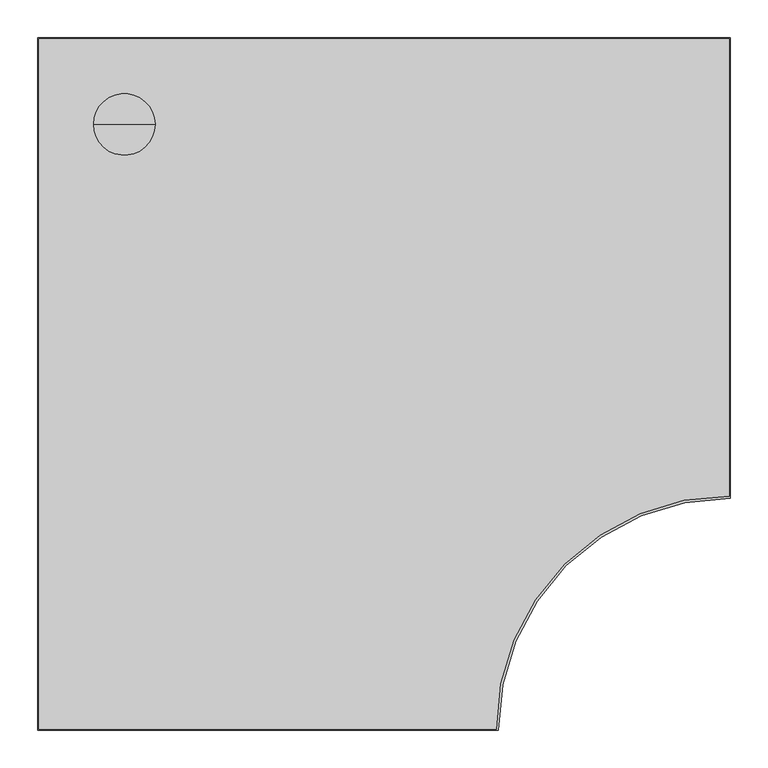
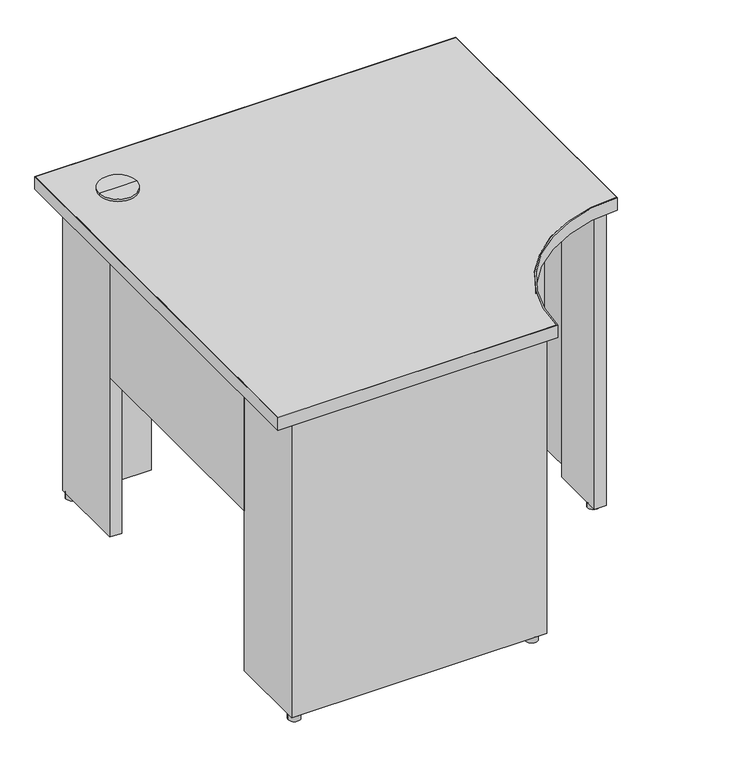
"""IFC4 building model written with IfcOpenShell, lengths in millimetres: furniture geometry, Steelcase - Kick Freestanding - Desk - Curve Corner - Partial Height Modesty Panel : 24D x 36W - Two Full Panel - LPL."""

import ifcopenshell
import ifcopenshell.guid

model = None  # the IFC model being written
_history = None  # IfcOwnerHistory: only IFC2X3 demands one
_inside = {}  # id of a spatial element -> (the spatial element, [elements in it])
_under = {}  # id of a project, library or spatial element -> (it, [spatial elements below it])
_declared = {}  # id of a project -> (the project, [libraries it declares])
_typed = {}  # id of a type object -> (the type object, [elements of that type])
_made_of = {}  # id of a material, layer set ... -> (it, [elements and type objects made of it])


def new_model(schema):
    """Start an empty IFC model of exactly this schema.

    Asked for "IFC4X3", IfcOpenShell would pick the latest addendum, in which some entities
    have other attributes; the version numbers below select the first issue.
    IFC2X3 requires an IfcOwnerHistory on every rooted entity: one is made here for all.
    """
    global model, _history
    if schema == "IFC4X3":
        model = ifcopenshell.file(schema_version=(4, 3, 0, 0))
    else:
        model = ifcopenshell.file(schema=schema)
    _inside.clear()
    _under.clear()
    _declared.clear()
    _typed.clear()
    _made_of.clear()
    _history = None
    if model.schema == "IFC2X3":
        org = make("IfcOrganization", Name="unknown")
        user = make(
            "IfcPersonAndOrganization",
            ThePerson=make("IfcPerson", FamilyName="unknown"),
            TheOrganization=org,
        )
        app = make(
            "IfcApplication",
            ApplicationDeveloper=org,
            Version="unknown",
            ApplicationFullName="unknown",
            ApplicationIdentifier="unknown",
        )
        _history = make(
            "IfcOwnerHistory",
            OwningUser=user,
            OwningApplication=app,
            ChangeAction="ADDED",
            CreationDate=0,
        )
    return model


def make(cls, **values):
    """One entity of the class cls with the attributes given. An attribute that is None is left unset."""
    return model.create_entity(
        cls, **{name: value for name, value in values.items() if value is not None}
    )


def rooted(cls, **values):
    """An entity with a GlobalId (a new one), such as an element, a storey or a relation."""
    return make(cls, GlobalId=ifcopenshell.guid.new(), OwnerHistory=_history, **values)


def si_unit(unit_type, name, prefix=None):
    """IfcSIUnit, for example si_unit("LENGTHUNIT", "METRE", prefix="MILLI")."""
    return make("IfcSIUnit", UnitType=unit_type, Prefix=prefix, Name=name)


def assignment(units):
    """IfcUnitAssignment: the units of a project."""
    return None if units is None else make("IfcUnitAssignment", Units=units)


def point(xyz):
    """IfcCartesianPoint."""
    return None if xyz is None else make("IfcCartesianPoint", Coordinates=xyz)


def direction(xyz):
    """IfcDirection."""
    return None if xyz is None else make("IfcDirection", DirectionRatios=xyz)


def frame(location, z_axis=None, x_axis=None):
    """IfcAxis2Placement3D, a coordinate frame: its origin and axes. An axis left out is left unset."""
    return make(
        "IfcAxis2Placement3D",
        Location=point(location),
        Axis=direction(z_axis),
        RefDirection=direction(x_axis),
    )


def frame_2d(location, x_axis=None):
    """IfcAxis2Placement2D, a coordinate frame in the plane: its origin and x axis."""
    return make(
        "IfcAxis2Placement2D", Location=point(location), RefDirection=direction(x_axis)
    )


def origin():
    """The frame at (0, 0, 0) with its axes left unset."""
    return frame((0.0, 0.0, 0.0))


def origin_with_axes():
    """The frame at (0, 0, 0) with the z axis (0, 0, 1) and the x axis (1, 0, 0) written out."""
    return frame((0.0, 0.0, 0.0), z_axis=(0.0, 0.0, 1.0), x_axis=(1.0, 0.0, 0.0))


def place(relative_to, where):
    """IfcLocalPlacement: puts the frame where relative to a parent placement (None: the world)."""
    return make(
        "IfcLocalPlacement", PlacementRelTo=relative_to, RelativePlacement=where
    )


def context(
    kind, dimensions, precision=None, world=None, true_north=None, identifier=None
):
    """IfcGeometricRepresentationContext, for example the 3D "Model" context."""
    return make(
        "IfcGeometricRepresentationContext",
        ContextIdentifier=identifier,
        ContextType=kind,
        CoordinateSpaceDimension=dimensions,
        Precision=precision,
        WorldCoordinateSystem=world,
        TrueNorth=true_north,
    )


def project(units=None, contexts=None):
    """IfcProject with its units and contexts."""
    return rooted(
        "IfcProject",
        Name="project",
        RepresentationContexts=contexts,
        UnitsInContext=assignment(units),
    )


def spatial(cls, under=None, at=None, **own):
    """A site, building, storey or space (cls), placed at a placement, below another one or the project."""
    s = rooted(cls, ObjectPlacement=at, **own)
    if under is not None:
        _under.setdefault(under.id(), (under, []))[1].append(s)
    return s


def polyline(points):
    """IfcPolyline through the points."""
    return make("IfcPolyline", Points=[point(p) for p in points])


def circle_curve(where, radius):
    """IfcCircle in the frame where."""
    return make("IfcCircle", Position=where, Radius=radius)


def trimmed(basis, trim1, trim2, sense, master):
    """IfcTrimmedCurve: the piece of a basis curve between two trims."""
    return make(
        "IfcTrimmedCurve",
        BasisCurve=basis,
        Trim1=trim1,
        Trim2=trim2,
        SenseAgreement=sense,
        MasterRepresentation=master,
    )


def segment(curve, same_sense, transition):
    """IfcCompositeCurveSegment."""
    return make(
        "IfcCompositeCurveSegment",
        Transition=transition,
        SameSense=same_sense,
        ParentCurve=curve,
    )


def composite_curve(segments, self_intersect=None):
    """IfcCompositeCurve: segments joined end to end."""
    return make("IfcCompositeCurve", Segments=segments, SelfIntersect=self_intersect)


def outline(outer, holes=None, kind="AREA"):
    """IfcArbitraryClosedProfileDef: a profile drawn as a closed curve; with holes, ...WithVoids."""
    if holes is None:
        return make("IfcArbitraryClosedProfileDef", ProfileType=kind, OuterCurve=outer)
    return make(
        "IfcArbitraryProfileDefWithVoids",
        ProfileType=kind,
        OuterCurve=outer,
        InnerCurves=holes,
    )


def extrude(swept, where, along, depth):
    """IfcExtrudedAreaSolid: the profile swept, set in the frame where, extruded along a direction by depth."""
    return make(
        "IfcExtrudedAreaSolid",
        SweptArea=swept,
        Position=where,
        ExtrudedDirection=direction(along),
        Depth=depth,
    )


def shape(context_of_items, identifier, shape_type, items):
    """IfcShapeRepresentation: the items that make up one representation, for example the "Body"."""
    return make(
        "IfcShapeRepresentation",
        ContextOfItems=context_of_items,
        RepresentationIdentifier=identifier,
        RepresentationType=shape_type,
        Items=items,
    )


def source(mapping_origin, context_of_items, identifier, shape_type, items):
    """IfcRepresentationMap: a shape defined once, which mapped items show again and again."""
    return make(
        "IfcRepresentationMap",
        MappingOrigin=mapping_origin,
        MappedRepresentation=shape(context_of_items, identifier, shape_type, items),
    )


def transform(
    local_origin,
    x_axis=None,
    y_axis=None,
    z_axis=None,
    scale=None,
    scale2=None,
    scale3=None,
    uniform=True,
):
    """IfcCartesianTransformationOperator3D, or its non-uniform kind. x_axis, y_axis, z_axis: its Axis1, 2, 3."""
    if uniform:
        return make(
            "IfcCartesianTransformationOperator3D",
            Axis1=direction(x_axis),
            Axis2=direction(y_axis),
            LocalOrigin=point(local_origin),
            Scale=scale,
            Axis3=direction(z_axis),
        )
    return make(
        "IfcCartesianTransformationOperator3DnonUniform",
        Axis1=direction(x_axis),
        Axis2=direction(y_axis),
        LocalOrigin=point(local_origin),
        Scale=scale,
        Axis3=direction(z_axis),
        Scale2=scale2,
        Scale3=scale3,
    )


def mapped(mapping_source, mapping_target):
    """IfcMappedItem: shows the shape of a source again, moved by a transform."""
    return make(
        "IfcMappedItem", MappingSource=mapping_source, MappingTarget=mapping_target
    )


def made_of(thing, what):
    """Note that an element or type object is made of a material, layer set ...; save() writes the relation."""
    if what is not None:
        _made_of.setdefault(what.id(), (what, []))[1].append(thing)
    return thing


def element(
    cls,
    number,
    at=None,
    inside=None,
    cuts=None,
    type_object=None,
    material=None,
    context=None,
    identifier="Body",
    shape_type=None,
    held_by="IfcProductDefinitionShape",
    body=None,
    shapes=None,
    **own,
):
    """One element of the class cls, such as IfcWall. Its Tag is "e" and its number.

    at: its placement. inside: the storey or other place that contains it. cuts: it is an
    opening in that element (IfcRelVoidsElement). A single representation is given by context,
    identifier, shape_type and body (its items); several are given by shapes. held_by: the class
    of the entity that holds the representations. save() writes the other relations.
    """
    e = rooted(cls, Tag="e%d" % number, ObjectPlacement=at, **own)
    if body is not None:
        shapes = [shape(context, identifier, shape_type, body)]
    if shapes is not None:
        e.Representation = make(held_by, Representations=shapes)
    if inside is not None:
        _inside.setdefault(inside.id(), (inside, []))[1].append(e)
    if cuts is not None:
        rooted(
            "IfcRelVoidsElement", RelatingBuildingElement=cuts, RelatedOpeningElement=e
        )
    if type_object is not None:
        _typed.setdefault(type_object.id(), (type_object, []))[1].append(e)
    return made_of(e, material)


def aggregate(whole, parts):
    """IfcRelAggregates: a whole, such as a stair, and the parts it consists of."""
    return rooted("IfcRelAggregates", RelatingObject=whole, RelatedObjects=parts)


def save(model, path):
    """Write the relations noted so far, then the file.

    IfcRelAggregates (storeys below a building ...), IfcRelContainedInSpatialStructure (elements
    in a storey), IfcRelDefinesByType, IfcRelAssociatesMaterial and IfcRelDeclares: one each for
    every whole, place, type object, material and project.
    """
    for whole, parts in _under.values():
        aggregate(whole, parts)
    for where, things in _inside.values():
        rooted(
            "IfcRelContainedInSpatialStructure",
            RelatedElements=things,
            RelatingStructure=where,
        )
    for kind, things in _typed.values():
        rooted("IfcRelDefinesByType", RelatedObjects=things, RelatingType=kind)
    for what, things in _made_of.values():
        rooted("IfcRelAssociatesMaterial", RelatedObjects=things, RelatingMaterial=what)
    for by, libraries in _declared.values():
        rooted("IfcRelDeclares", RelatingContext=by, RelatedDefinitions=libraries)
    model.write(path)


def plane_surface(at):
    """IfcPlane: the flat surface through the origin of the frame at, square to its z axis."""
    return make("IfcPlane", Position=at)


def cylinder_surface(at, radius):
    """IfcCylindricalSurface: all points at the distance radius from the z axis of the frame at."""
    return make("IfcCylindricalSurface", Position=at, Radius=radius)


def advanced_brep(points, edges, surfaces, faces):
    """IfcAdvancedBrep: a solid bounded by faces that lie on surfaces and meet in shared edges.

    An edge is (start, end): straight between two places in points (the first is 0);
    or (start, end, curve); or (start, end, curve, False) where it runs against its curve.
    A face is (place in surfaces, loops), or (place, loops, False) where it looks against
    its surface's normal. A loop lists edges by number (the first is 1), with a minus sign
    where the edge is run from its end to its start. The first loop is the outer one.
    """
    corners = [point(p) for p in points]
    vertices = [make("IfcVertexPoint", VertexGeometry=c) for c in corners]
    made = []
    for start, end, *more in edges:
        made.append(
            make(
                "IfcEdgeCurve",
                EdgeStart=vertices[start],
                EdgeEnd=vertices[end],
                EdgeGeometry=more[0] if more else make("IfcPolyline", Points=[corners[start], corners[end]]),
                SameSense=more[1] if len(more) > 1 else True,
            )
        )
    hull = []
    for where, loops, *sense in faces:
        bounds = []
        for j, loop in enumerate(loops):
            ring = [make("IfcOrientedEdge", EdgeElement=made[abs(k) - 1], Orientation=k > 0) for k in loop]
            bounds.append(
                make(
                    "IfcFaceOuterBound" if j == 0 else "IfcFaceBound",
                    Bound=make("IfcEdgeLoop", EdgeList=ring),
                    Orientation=True,
                )
            )
        hull.append(make("IfcAdvancedFace", Bounds=bounds, FaceSurface=surfaces[where], SameSense=sense[0] if sense else True))
    return make("IfcAdvancedBrep", Outer=make("IfcClosedShell", CfsFaces=hull))


def furniture_f6598cb0(model_context):
    return source(origin(), model_context, "Body", "SolidModel", [
        extrude(outline(composite_curve([segment(trimmed(circle_curve(frame_2d((886.4853521, -565.8064761)), 12.7), [point((873.7853521, -565.8064761))], [point((899.1853521, -565.8064761))], False, "CARTESIAN"), True, "CONTINUOUS"), segment(trimmed(circle_curve(frame_2d((886.4853521, -565.8064761)), 12.7), [point((899.1853521, -565.8064761))], [point((873.7853521, -565.8064761))], False, "CARTESIAN"), True, "CONTINUOUS")], self_intersect=False)), origin_with_axes(), (0.0, 0.0, 1.0), 12.446),
        extrude(outline(composite_curve([segment(trimmed(circle_curve(frame_2d((566.7971133, -887.4759893)), 12.7), [point((554.0971133, -887.4759893))], [point((579.4971133, -887.4759893))], False, "CARTESIAN"), True, "CONTINUOUS"), segment(trimmed(circle_curve(frame_2d((566.7971133, -887.4759893)), 12.7), [point((579.4971133, -887.4759893))], [point((554.0971133, -887.4759893))], False, "CARTESIAN"), True, "CONTINUOUS")], self_intersect=False)), origin_with_axes(), (0.0, 0.0, 1.0), 12.446),
        extrude(outline(polyline([(215.8999939, -63.5), (63.5, -63.5), (63.5, -215.8999939), (38.1, -215.8999939), (38.1, -38.1), (215.8999939, -38.1), (215.8999939, -63.5)])), frame((0.0, 0.0, 12.446), z_axis=(0.0, 0.0, 1.0), x_axis=(1.0, 0.0, 0.0)), (0.0, 0.0, 1.0), 682.498),
        extrude(outline(polyline([(63.5, -722.6300194), (63.5, -875.0300194), (161.3662, -875.0300194), (161.3662, -894.6895822), (261.0866, -894.6895822), (261.0866, -875.0300194), (369.824, -875.0300194), (369.824, -894.6895822), (469.5444, -894.6895822), (469.5444, -875.0300194), (592.582, -875.0300194), (592.582, -900.4299952), (38.1, -900.4299952), (38.1, -722.6300194), (63.5, -722.6300194)])), frame((0.0, 0.0, 12.446), z_axis=(0.0, 0.0, 1.0), x_axis=(1.0, 0.0, 0.0)), (0.0, 0.0, 1.0), 682.498),
        extrude(outline(polyline([(721.6393822, -63.5), (721.6393822, -38.1), (899.4393579, -38.1), (899.4393579, -592.582), (873.5313463, -592.582), (873.5313463, -469.5444), (893.698945, -469.5444), (893.698945, -369.824), (873.5313463, -369.824), (873.5313463, -261.0866), (893.698945, -261.0866), (893.698945, -161.3662), (873.5313463, -161.3662), (873.5313463, -63.5), (721.6393822, -63.5)])), frame((0.0, 0.0, 12.446), z_axis=(0.0, 0.0, 1.0), x_axis=(1.0, 0.0, 0.0)), (0.0, 0.0, 1.0), 682.498),
        advanced_brep(
        [(114.3, -114.3, 728.98), (154.94, -114.3, 728.98), (73.66, -114.3, 728.98), (76.1699693, -114.3, 694.944), (152.4300307, -114.3, 694.944), (114.3, -114.3, 694.944), (76.1699693, -114.3, 723.9), (152.4300307, -114.3, 723.9), (73.66, -114.3, 723.9), (154.94, -114.3, 723.9)],
        [
            (0, 1),
            (1, 2, circle_curve(frame((114.3, -114.3, 728.98), z_axis=(0.0, 0.0, 1.0), x_axis=(1.0, 0.0, 0.0)), 40.64)),
            (2, 0),
            (2, 1, circle_curve(frame((114.3, -114.3, 728.98), z_axis=(0.0, 0.0, 1.0), x_axis=(1.0, 0.0, 0.0)), 40.64)),
            (3, 4, circle_curve(frame((114.3, -114.3, 694.944), z_axis=(0.0, 0.0, -1.0), x_axis=(1.0, 0.0, 0.0)), 38.1300307)),
            (4, 5),
            (5, 3),
            (4, 3, circle_curve(frame((114.3, -114.3, 694.944), z_axis=(0.0, 0.0, -1.0), x_axis=(1.0, 0.0, 0.0)), 38.1300307)),
            (6, 7, circle_curve(frame((114.3, -114.3, 723.9), z_axis=(0.0, 0.0, -1.0), x_axis=(1.0, 0.0, 0.0)), 38.1300307)),
            (7, 4),
            (3, 6),
            (7, 6, circle_curve(frame((114.3, -114.3, 723.9), z_axis=(0.0, 0.0, -1.0), x_axis=(1.0, 0.0, 0.0)), 38.1300307)),
            (8, 9, circle_curve(frame((114.3, -114.3, 723.9), z_axis=(0.0, 0.0, -1.0), x_axis=(1.0, 0.0, 0.0)), 40.64)),
            (9, 7),
            (6, 8),
            (9, 8, circle_curve(frame((114.3, -114.3, 723.9), z_axis=(0.0, 0.0, -1.0), x_axis=(1.0, 0.0, 0.0)), 40.64)),
            (1, 9),
            (8, 2),
        ],
        [
            plane_surface(frame((114.3, -114.3, 728.98), z_axis=(0.0, 0.0, 1.0), x_axis=(1.0, 0.0, 0.0))),
            plane_surface(frame((114.3, -114.3, 694.944), z_axis=(0.0, 0.0, -1.0), x_axis=(1.0, 0.0, 0.0))),
            cylinder_surface(frame((114.3, -114.3, 728.98), z_axis=(0.0, 0.0, 1.0), x_axis=(1.0, 0.0, 0.0)), 38.1300307),
            plane_surface(frame((114.3, -114.3, 723.9), z_axis=(0.0, 0.0, -1.0), x_axis=(1.0, 0.0, 0.0))),
            cylinder_surface(frame((114.3, -114.3, 728.98), z_axis=(0.0, 0.0, 1.0), x_axis=(1.0, 0.0, 0.0)), 40.64),
        ],
        [
            (0, [[1, 2, 3]]),
            (0, [[-3, 4, -1]]),
            (1, [[5, 6, 7]]),
            (1, [[8, -7, -6]]),
            (2, [[9, 10, -5, 11]]),
            (2, [[12, -11, -8, -10]]),
            (3, [[13, 14, -9, 15]]),
            (3, [[16, -15, -12, -14]]),
            (4, [[-2, 17, -13, 18]]),
            (4, [[-4, -18, -16, -17]]),
        ],
    ),
        extrude(outline(composite_curve([segment(trimmed(circle_curve(frame_2d((50.8, -50.8)), 12.7), [point((38.1, -50.8))], [point((63.5, -50.8))], False, "CARTESIAN"), True, "CONTINUOUS"), segment(trimmed(circle_curve(frame_2d((50.8, -50.8)), 12.7), [point((63.5, -50.8))], [point((38.1, -50.8))], False, "CARTESIAN"), True, "CONTINUOUS")], self_intersect=False)), origin_with_axes(), (0.0, 0.0, 1.0), 12.446),
        extrude(outline(composite_curve([segment(trimmed(circle_curve(frame_2d((50.8, -887.7300073)), 12.7484998), [point((38.0515002, -887.7300073))], [point((63.5484998, -887.7300073))], False, "CARTESIAN"), True, "CONTINUOUS"), segment(trimmed(circle_curve(frame_2d((50.8, -887.7300073)), 12.7484998), [point((63.5484998, -887.7300073))], [point((38.0515002, -887.7300073))], False, "CARTESIAN"), True, "CONTINUOUS")], self_intersect=False)), origin_with_axes(), (0.0, 0.0, 1.0), 12.446),
        extrude(outline(composite_curve([segment(trimmed(circle_curve(frame_2d((886.4853521, -50.8)), 12.7), [point((873.7853521, -50.8))], [point((899.1853521, -50.8))], False, "CARTESIAN"), True, "CONTINUOUS"), segment(trimmed(circle_curve(frame_2d((886.4853521, -50.8)), 12.7), [point((899.1853521, -50.8))], [point((873.7853521, -50.8))], False, "CARTESIAN"), True, "CONTINUOUS")], self_intersect=False)), origin_with_axes(), (0.0, 0.0, 1.0), 12.446),
        extrude(outline(polyline([(63.5, -215.8999939), (63.5, -722.6300194), (38.1, -722.6300194), (38.1, -215.8999939), (63.5, -215.8999939)])), frame((0.0, 0.0, 379.476), z_axis=(0.0, 0.0, 1.0), x_axis=(1.0, 0.0, 0.0)), (0.0, 0.0, 1.0), 315.468),
        extrude(outline(polyline([(721.6393822, -38.1), (721.6393822, -63.5), (215.8999939, -63.5), (215.8999939, -38.1), (721.6393822, -38.1)])), frame((0.0, 0.0, 379.476), z_axis=(0.0, 0.0, 1.0), x_axis=(1.0, 0.0, 0.0)), (0.0, 0.0, 1.0), 315.468),
        extrude(outline(composite_curve([segment(polyline([(0.9906, -913.4093628), (0.9906, -0.9906), (913.4093628, -0.9906), (913.4093628, -605.3354109)]), True, "CONTINUOUS"), segment(trimmed(circle_curve(frame_2d((912.1393458, -912.1393458)), 306.8065636), [point((913.4093628, -605.3354109))], [point((605.3354109, -913.4093628))], True, "CARTESIAN"), True, "CONTINUOUS"), segment(polyline([(605.3354109, -913.4093628), (0.9906, -913.4093628)]), True, "CONTINUOUS")], self_intersect=False)), frame((0.0, 0.0, 694.944), z_axis=(0.0, 0.0, 1.0), x_axis=(1.0, 0.0, 0.0)), (0.0, 0.0, 1.0), 28.956),
        extrude(outline(composite_curve([segment(polyline([(914.4, 0.0), (914.4, -608.332629)]), True, "CONTINUOUS"), segment(trimmed(circle_curve(frame_2d((913.129983, -913.129983)), 304.8), [point((914.4, -608.332629))], [point((608.332629, -914.4))], True, "CARTESIAN"), True, "CONTINUOUS"), segment(polyline([(608.332629, -914.4), (0.0, -914.4), (0.0, 0.0), (914.4, 0.0)]), True, "CONTINUOUS")], self_intersect=False), holes=[composite_curve([segment(polyline([(913.4093628, -0.9906), (0.9906, -0.9906), (0.9906, -913.4093628), (605.3354109, -913.4093628)]), True, "CONTINUOUS"), segment(trimmed(circle_curve(frame_2d((912.1393458, -912.1393458)), 306.8065636), [point((605.3354109, -913.4093628))], [point((913.4093628, -605.3354109))], False, "CARTESIAN"), True, "CONTINUOUS"), segment(polyline([(913.4093628, -605.3354109), (913.4093628, -0.9906)]), True, "CONTINUOUS")], self_intersect=False)]), frame((0.0, 0.0, 694.944), z_axis=(0.0, 0.0, 1.0), x_axis=(1.0, 0.0, 0.0)), (0.0, 0.0, 1.0), 28.956),
    ])


if __name__ == "__main__":
    model = new_model("IFC4")
    model_context = context("Model", 3, world=origin())
    ifc_project = project(units=[si_unit("LENGTHUNIT", "METRE", prefix="MILLI")], contexts=[model_context])
    site = spatial("IfcSite", under=ifc_project)
    building = spatial("IfcBuilding", under=site)
    placement = place(None, origin())
    furniture_shape = furniture_f6598cb0(model_context)
    element("IfcFurniture", 1, ObjectType="Steelcase - Kick Freestanding - Desk - Curve Corner - Partial Height Modesty Panel : 24D x 36W - Two Full Panel - LPL", at=placement, inside=building, context=model_context, shape_type="MappedRepresentation", body=[
        mapped(furniture_shape, transform((0.0, 0.0, 0.0), x_axis=(1.0, 0.0, 0.0), y_axis=(0.0, 1.0, 0.0), z_axis=(0.0, 0.0, 1.0))),
    ])
    save(model, "model.ifc")
